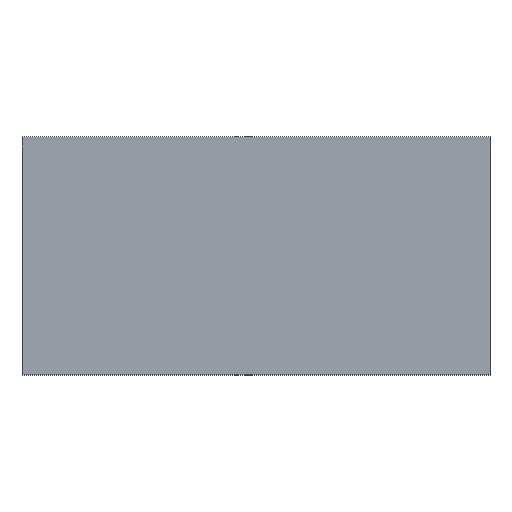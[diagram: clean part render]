
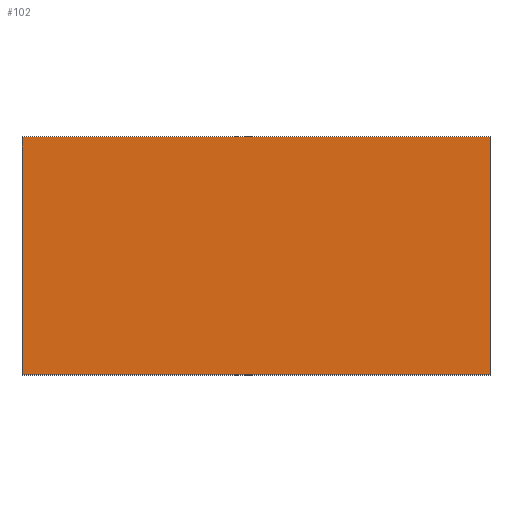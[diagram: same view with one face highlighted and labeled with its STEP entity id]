
A CAD part, top view. The second image highlights one B-rep face of the part: STEP entity #102.
In plain terms, the highlighted planar face has unit normal (0, 0, 1).
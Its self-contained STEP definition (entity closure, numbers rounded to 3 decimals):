
#16=FACE_OUTER_BOUND('',#22,.T.);
#22=EDGE_LOOP('',(#75,#76,#77,#78));
#30=LINE('',#162,#42);
#31=LINE('',#165,#43);
#32=LINE('',#167,#44);
#33=LINE('',#168,#45);
#42=VECTOR('',#134,10.);
#43=VECTOR('',#137,10.);
#44=VECTOR('',#138,10.);
#45=VECTOR('',#139,10.);
#51=VERTEX_POINT('',#155);
#54=VERTEX_POINT('',#160);
#55=VERTEX_POINT('',#164);
#56=VERTEX_POINT('',#166);
#62=EDGE_CURVE('',#51,#54,#30,.T.);
#63=EDGE_CURVE('',#55,#51,#31,.T.);
#64=EDGE_CURVE('',#56,#54,#32,.T.);
#65=EDGE_CURVE('',#55,#56,#33,.T.);
#75=ORIENTED_EDGE('',*,*,#63,.T.);
#76=ORIENTED_EDGE('',*,*,#62,.T.);
#77=ORIENTED_EDGE('',*,*,#64,.F.);
#78=ORIENTED_EDGE('',*,*,#65,.F.);
#96=PLANE('',#122);
#102=ADVANCED_FACE('',(#16),#96,.T.);
#122=AXIS2_PLACEMENT_3D('',#163,#135,#136);
#134=DIRECTION('',(0.,-1.,0.));
#135=DIRECTION('center_axis',(0.,0.,1.));
#136=DIRECTION('ref_axis',(-1.,0.,0.));
#137=DIRECTION('',(-1.,0.,0.));
#138=DIRECTION('',(-1.,0.,0.));
#139=DIRECTION('',(0.,-1.,0.));
#155=CARTESIAN_POINT('',(-2.95,1.5,1.5));
#160=CARTESIAN_POINT('',(-2.95,0.,1.5));
#162=CARTESIAN_POINT('',(-2.95,1.5,1.5));
#163=CARTESIAN_POINT('Origin',(0.,1.5,1.5));
#164=CARTESIAN_POINT('',(0.,1.5,1.5));
#165=CARTESIAN_POINT('',(0.,1.5,1.5));
#166=CARTESIAN_POINT('',(0.,0.,1.5));
#167=CARTESIAN_POINT('',(0.,0.,1.5));
#168=CARTESIAN_POINT('',(0.,1.5,1.5));
